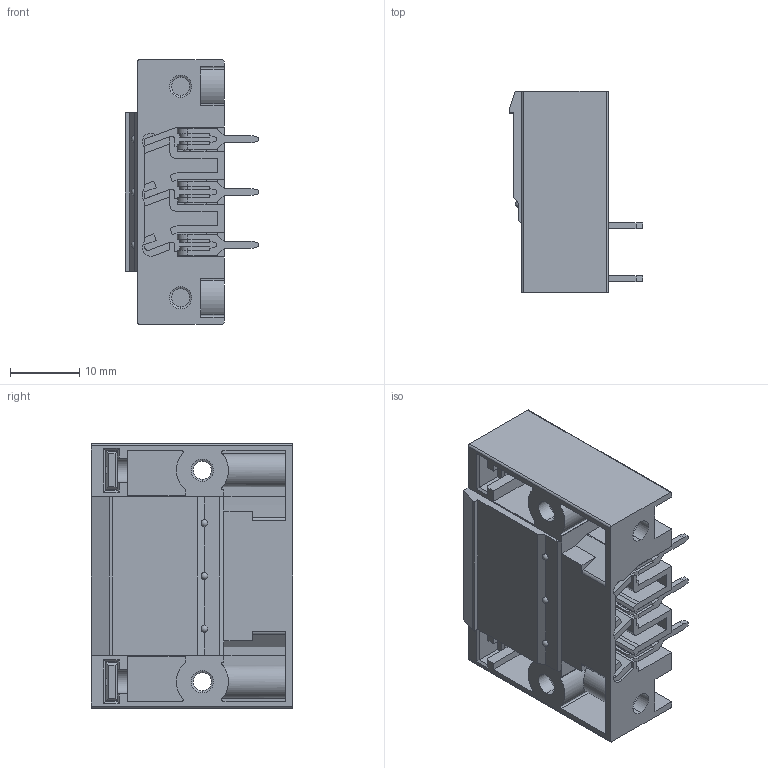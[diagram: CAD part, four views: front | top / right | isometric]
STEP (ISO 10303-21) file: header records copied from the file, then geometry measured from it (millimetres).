
FILE_DESCRIPTION((''),'2;1');
FILE_NAME('3PIN_SW0001','2019-05-22T',('zhenbing.lai'),(''),'CREO PARAMETRIC BY PTC INC, 2016260','CREO PARAMETRIC BY PTC INC, 2016260','');
FILE_SCHEMA(('CONFIG_CONTROL_DESIGN'));
Length unit declared in the file: millimetre
Products named in the file (1): 3PIN_SW0001
Bounding box: 19.3 x 29 x 38.1 mm (x, y, z)
Volume: 7340.7 mm3; surface area: 9283 mm2
Topology: 1 solids, 1 shells, 644 faces, 1865 edges, 1222 vertices
Faces by surface type: plane 514, cylinder 97, cone 16, sphere 9, bspline 8
Entity records: 22958 total; most frequent: CARTESIAN_POINT 5880, ORIENTED_EDGE 3712, DIRECTION 3317, EDGE_CURVE 1856, VECTOR 1549, LINE 1549, VERTEX_POINT 1222, AXIS2_PLACEMENT_3D 884
